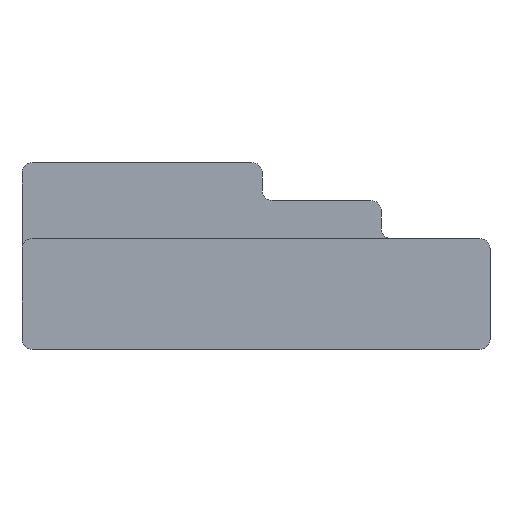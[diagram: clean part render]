
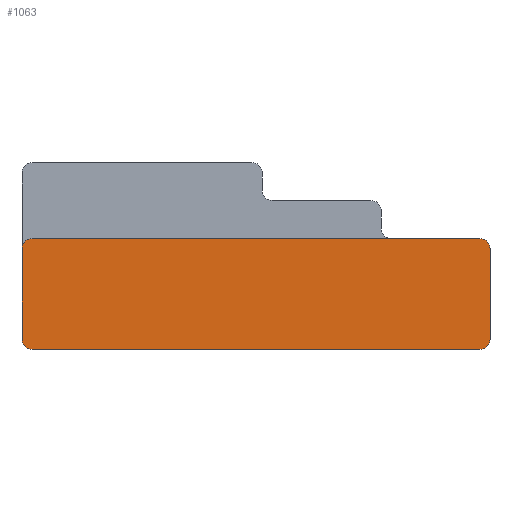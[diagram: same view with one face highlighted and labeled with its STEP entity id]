
A CAD part, front view. The second image highlights one B-rep face of the part: STEP entity #1063.
In plain terms, the highlighted planar face has unit normal (0, -1, 0).
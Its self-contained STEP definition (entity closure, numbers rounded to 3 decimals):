
#190=CARTESIAN_POINT('',(-10.9,-11.6,4.9));
#191=DIRECTION('',(0.,-1.,0.));
#192=DIRECTION('',(0.,0.,1.));
#193=AXIS2_PLACEMENT_3D('',#190,#191,#192);
#195=CARTESIAN_POINT('',(10.9,-11.6,4.9));
#196=DIRECTION('',(0.,-1.,0.));
#197=DIRECTION('',(1.,0.,0.));
#198=AXIS2_PLACEMENT_3D('',#195,#196,#197);
#200=CARTESIAN_POINT('',(10.9,-11.6,0.5));
#201=DIRECTION('',(0.,-1.,0.));
#202=DIRECTION('',(0.,0.,-1.));
#203=AXIS2_PLACEMENT_3D('',#200,#201,#202);
#205=CARTESIAN_POINT('',(-10.9,-11.6,0.5));
#206=DIRECTION('',(0.,-1.,0.));
#207=DIRECTION('',(-1.,0.,0.));
#208=AXIS2_PLACEMENT_3D('',#205,#206,#207);
#210=DIRECTION('',(0.,0.,1.));
#211=VECTOR('',#210,4.4);
#212=CARTESIAN_POINT('',(-11.4,-11.6,0.5));
#213=LINE('',#212,#211);
#298=DIRECTION('',(1.,0.,0.));
#299=VECTOR('',#298,21.8);
#300=CARTESIAN_POINT('',(-10.9,-11.6,5.4));
#301=LINE('',#300,#299);
#490=DIRECTION('',(1.,0.,0.));
#491=VECTOR('',#490,21.8);
#492=CARTESIAN_POINT('',(-10.9,-11.6,0.));
#493=LINE('',#492,#491);
#560=DIRECTION('',(0.,0.,1.));
#561=VECTOR('',#560,4.4);
#562=CARTESIAN_POINT('',(11.4,-11.6,0.5));
#563=LINE('',#562,#561);
#688=CARTESIAN_POINT('',(-10.9,-11.6,5.4));
#689=CARTESIAN_POINT('',(-11.4,-11.6,4.9));
#690=VERTEX_POINT('',#688);
#691=VERTEX_POINT('',#689);
#716=CARTESIAN_POINT('',(11.4,-11.6,4.9));
#717=VERTEX_POINT('',#716);
#718=CARTESIAN_POINT('',(10.9,-11.6,5.4));
#719=VERTEX_POINT('',#718);
#720=CARTESIAN_POINT('',(10.9,-11.6,0.));
#721=CARTESIAN_POINT('',(11.4,-11.6,0.5));
#722=VERTEX_POINT('',#720);
#723=VERTEX_POINT('',#721);
#732=CARTESIAN_POINT('',(-11.4,-11.6,0.5));
#733=VERTEX_POINT('',#732);
#734=CARTESIAN_POINT('',(-10.9,-11.6,0.));
#735=VERTEX_POINT('',#734);
#1041=CARTESIAN_POINT('',(-11.4,-11.6,0.));
#1042=DIRECTION('',(0.,-1.,0.));
#1043=DIRECTION('',(1.,0.,0.));
#1044=AXIS2_PLACEMENT_3D('',#1041,#1042,#1043);
#1045=PLANE('',#1044);
#1047=ORIENTED_EDGE('',*,*,#1046,.F.);
#1049=ORIENTED_EDGE('',*,*,#1048,.T.);
#1051=ORIENTED_EDGE('',*,*,#1050,.F.);
#1053=ORIENTED_EDGE('',*,*,#1052,.F.);
#1054=ORIENTED_EDGE('',*,*,#1031,.F.);
#1056=ORIENTED_EDGE('',*,*,#1055,.F.);
#1058=ORIENTED_EDGE('',*,*,#1057,.F.);
#1060=ORIENTED_EDGE('',*,*,#1059,.T.);
#1061=EDGE_LOOP('',(#1047,#1049,#1051,#1053,#1054,#1056,#1058,#1060));
#1062=FACE_OUTER_BOUND('',#1061,.F.);
#1063=ADVANCED_FACE('',(#1062),#1045,.T.);
#194=CIRCLE('',#193,0.5);
#199=CIRCLE('',#198,0.5);
#204=CIRCLE('',#203,0.5);
#209=CIRCLE('',#208,0.5);
#1031=EDGE_CURVE('',#722,#723,#204,.T.);
#1046=EDGE_CURVE('',#690,#691,#194,.T.);
#1048=EDGE_CURVE('',#690,#719,#301,.T.);
#1050=EDGE_CURVE('',#717,#719,#199,.T.);
#1052=EDGE_CURVE('',#723,#717,#563,.T.);
#1055=EDGE_CURVE('',#735,#722,#493,.T.);
#1057=EDGE_CURVE('',#733,#735,#209,.T.);
#1059=EDGE_CURVE('',#733,#691,#213,.T.);
